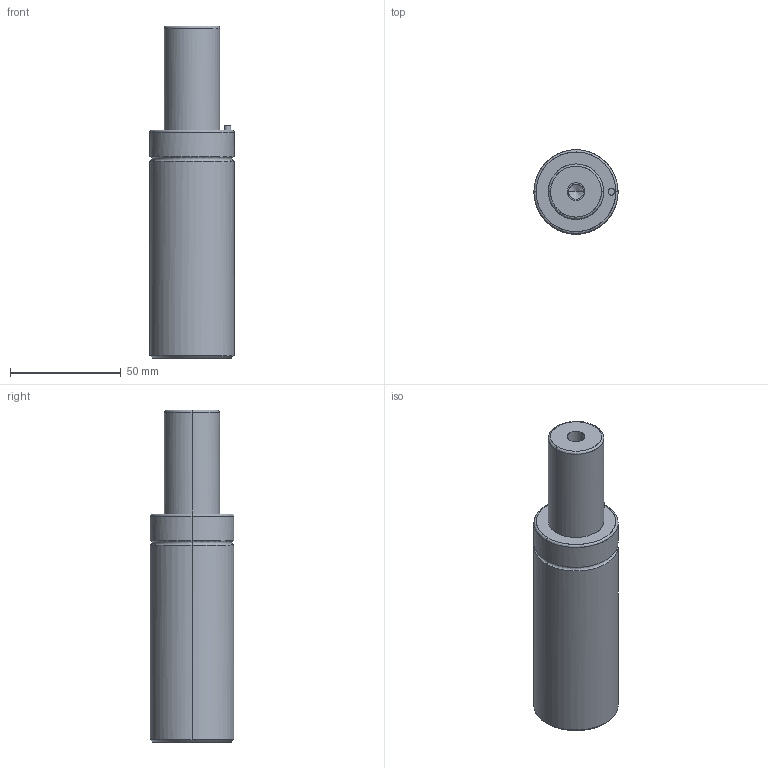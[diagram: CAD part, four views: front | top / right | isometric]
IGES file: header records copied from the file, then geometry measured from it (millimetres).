
Global section: file name: E:\UnigraphicsGraphicData\MISUMI_PRESS-PARTS\IGES\3d_gsm38-45_03908_r00.igs; native system: NX V5.0; preprocessor: UGS NX IGES V5.0; author: MISUMI; date: 20110105.160813; units: millimetre
Bounding box: 38 x 37.93 x 150 mm (x, y, z)
Surface area: 19233.1 mm2 (no closed solid volume)
Topology: 0 solids, 0 shells, 48 faces, 320 edges, 312 vertices
Faces by surface type: bspline 48
